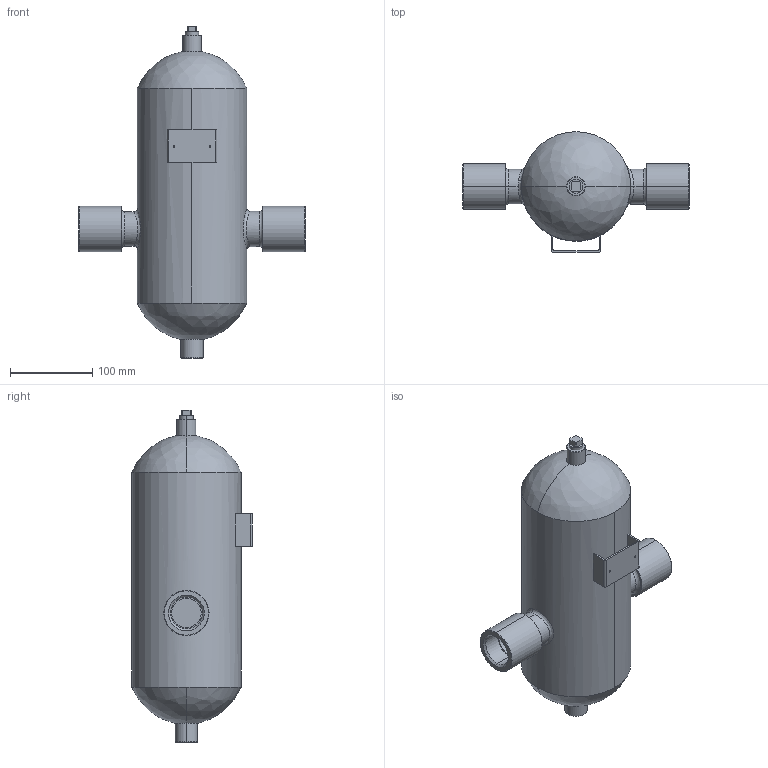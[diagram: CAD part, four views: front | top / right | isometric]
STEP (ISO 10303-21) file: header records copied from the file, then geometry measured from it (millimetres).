
FILE_DESCRIPTION( (''), '2;1');
FILE_NAME ('PC2078.19660.DS-10 32A_9656.stp','2026-03-10T12:50:33',(''),(''),'spGate 20.6.3 (****-****-****-****)','','');
FILE_SCHEMA (('AUTOMOTIVE_DESIGN'));
Length unit declared in the file: millimetre
Products named in the file (3): Assembly; 32A JIS Rc; 10Aプラグ
Assembly tree (2 placements, depth 2):
  Assembly
    32A JIS Rc
    10Aプラグ
Bounding box: 276 x 146.61 x 404 mm (x, y, z)
Volume: 1067424.4 mm3; surface area: 427369.5 mm2
Topology: 2 solids, 2 shells, 142 faces, 346 edges, 222 vertices
Faces by surface type: plane 70, cylinder 40, bspline 28, sphere 4
Entity records: 8610 total; most frequent: CARTESIAN_POINT 2566, ORIENTED_EDGE 692, DIRECTION 612, COLOUR_RGB 490, PRESENTATION_STYLE_ASSIGNMENT 490, STYLED_ITEM 490, EDGE_CURVE 346, DRAUGHTING_PRE_DEFINED_CURVE_FONT 346
